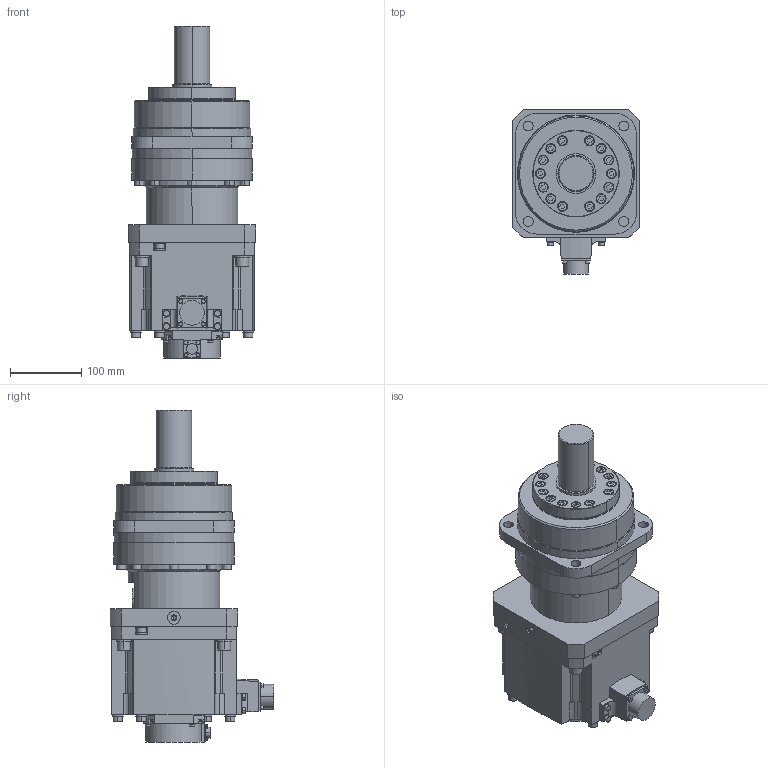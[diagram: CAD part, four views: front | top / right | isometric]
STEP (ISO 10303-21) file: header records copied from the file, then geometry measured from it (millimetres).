
FILE_DESCRIPTION((''),'2;1');
FILE_NAME('HG-SR352G7_1121_','2018-03-01T',('ZS28065'),(''),'CREO PARAMETRIC BY PTC INC, 2016380','CREO PARAMETRIC BY PTC INC, 2016380','');
FILE_SCHEMA(('CONFIG_CONTROL_DESIGN'));
Length unit declared in the file: millimetre
Products named in the file (1): HG-SR352G7_1121_
Bounding box: 180 x 230.85 x 467.5 mm (x, y, z)
Volume: 8312282 mm3; surface area: 345906 mm2
Topology: 1 solids, 1 shells, 784 faces, 1886 edges, 1249 vertices
Faces by surface type: plane 406, cylinder 309, cone 39, torus 30
Entity records: 23184 total; most frequent: DIRECTION 4238, CARTESIAN_POINT 4005, ORIENTED_EDGE 3768, EDGE_CURVE 1884, AXIS2_PLACEMENT_3D 1574, VERTEX_POINT 1249, VECTOR 1090, LINE 1090
